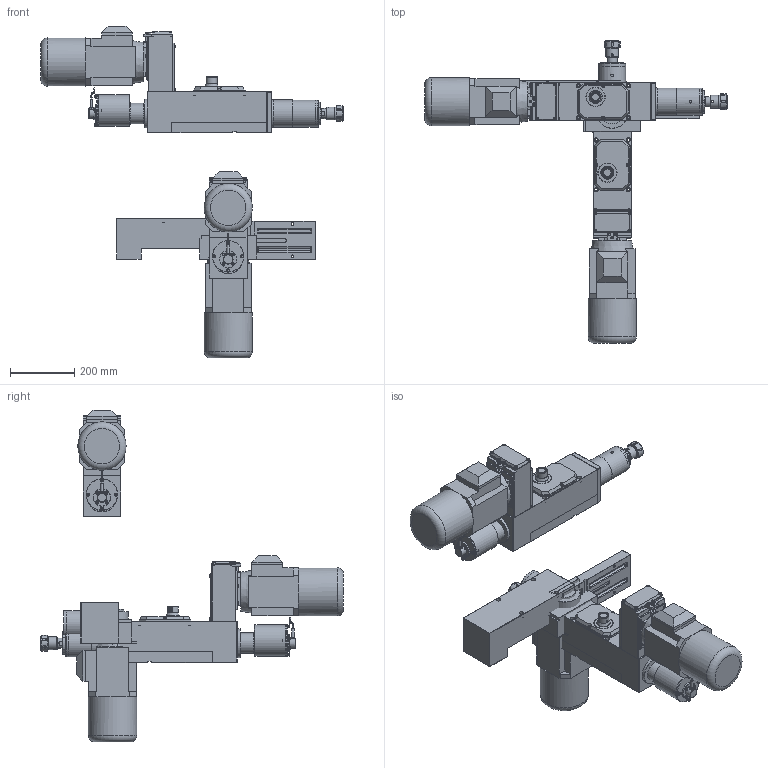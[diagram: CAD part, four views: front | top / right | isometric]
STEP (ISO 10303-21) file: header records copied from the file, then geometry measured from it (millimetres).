
FILE_DESCRIPTION( ( 'STEP AP203' ), '1' );
FILE_NAME( 'C:/Documents and Settings/Saverio/Desktop/disegni ironcad/unità serie 1/MC 112/MC 112_A03_P.stp', '2014-01-13T17:19:35', ( ' ' ), ( ' ' ), 'XStep 1.0', ' ', ' ' );
FILE_SCHEMA( ( 'CONFIG_CONTROL_DESIGN' ) );
Length unit declared in the file: metre
Products named in the file (54): Assem1; Assem2; Assem3; 1; 2; 3; 4; 5; 6; 7; 8; 9; 10; 11; 12; 13; 14; 15; 16; 17; 18; 19; 20; 21; 22; 23; 24; 25; 26; 27; 28; 29; 30; 31; 32; 33; 34; 35; 36; 37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
Bounding box: 940.2 x 942 x 1032.13 mm (x, y, z)
Volume: 40196483.9 mm3; surface area: 3363122.1 mm2
Topology: 153 solids, 153 shells, 3258 faces, 7419 edges, 4638 vertices
Faces by surface type: plane 1977, cylinder 729, cone 441, sphere 60, bspline 30, torus 21
Full cylindrical faces by diameter (mm): 4.134 x3, 4.5 x12, 5 x33, 5.5 x15, 6 x21, 6.5 x18, 6.75 x18, 6.9 x12, 7 x3, 8 x3, 8.385 x15, 8.5 x27, 9.87 x24, 13.5 x12, 18 x9, 20 x3, 23 x6, 27 x3, 30 x9, 32 x9, 38.5 x3, 40 x3, 41 x3, 50 x3, 52 x3, 52.5 x3, 54 x9, 54.4 x3, 60 x3, 64 x3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
Entity records: 33291 total; most frequent: CARTESIAN_POINT 7598, DIRECTION 4824, ORIENTED_EDGE 4382, EDGE_CURVE 2191, AXIS2_PLACEMENT_3D 1755, VERTEX_POINT 1508, EDGE_LOOP 1469, LINE 1314
